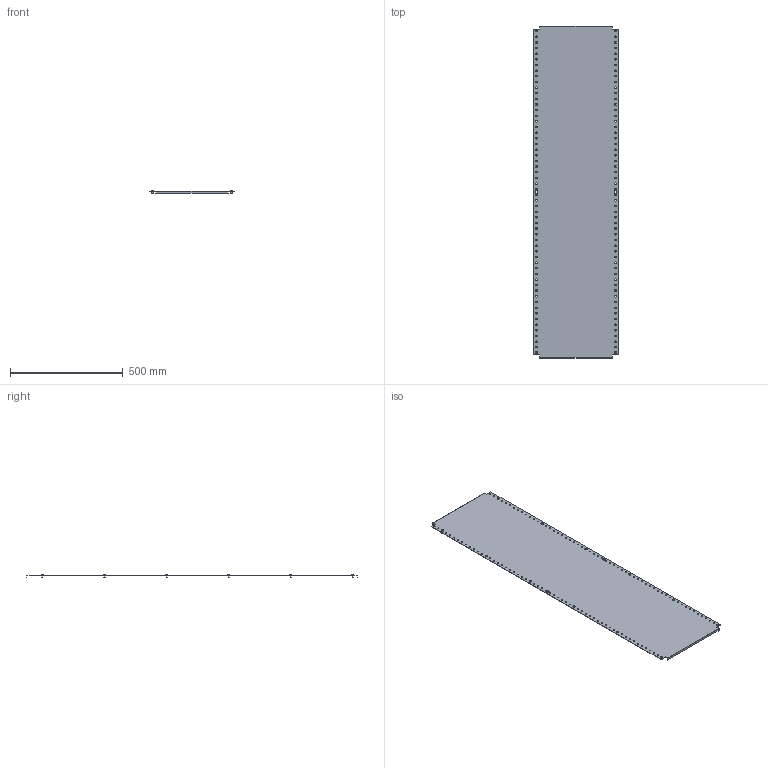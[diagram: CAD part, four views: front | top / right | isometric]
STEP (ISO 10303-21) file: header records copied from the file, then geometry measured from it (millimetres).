
FILE_DESCRIPTION (( 'STEP AP203' ), '1' );
FILE_NAME ('R6MP1645.STEP', '2025-03-28T12:09:10', ( '' ), ( '' ), 'SwSTEP 2.0', 'SolidWorks 2022', '' );
FILE_SCHEMA (( 'CONFIG_CONTROL_DESIGN' ));
Length unit declared in the file: millimetre
Products named in the file (3): R6MP1645; RB.3293.00.00.0_-16; M5x12 DIN 7500 C Torx Zinc_stright
Assembly tree (13 placements, depth 2):
  R6MP1645
    RB.3293.00.00.0_-16
    M5x12 DIN 7500 C Torx Zinc_stright  x12
Bounding box: 375 x 1470 x 15.56 mm (x, y, z)
Volume: 996476.6 mm3; surface area: 1117758 mm2
Topology: 13 solids, 13 shells, 342 faces, 804 edges, 500 vertices
Faces by surface type: cylinder 144, plane 126, torus 24, cone 24, sphere 12, bspline 12
Full cylindrical faces by diameter (mm): 5 x12, 6.5 x116, 9.5 x12
Entity records: 6213 total; most frequent: CARTESIAN_POINT 1044, DIRECTION 956, ORIENTED_EDGE 696, EDGE_LOOP 526, AXIS2_PLACEMENT_3D 434, EDGE_CURVE 348, VERTEX_POINT 310, FACE_OUTER_BOUND 288
